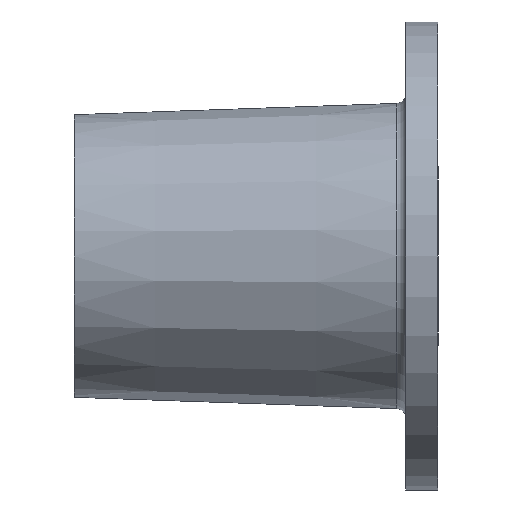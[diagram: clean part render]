
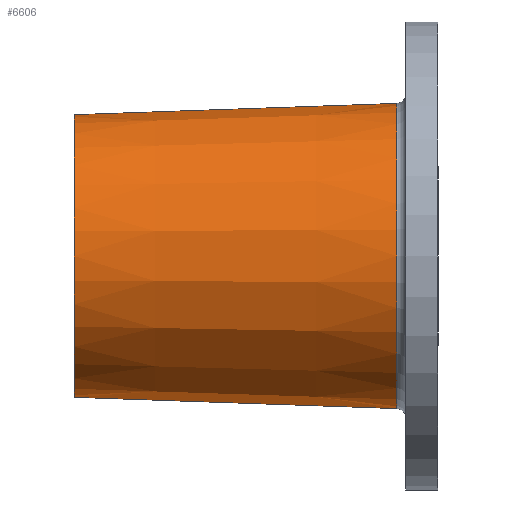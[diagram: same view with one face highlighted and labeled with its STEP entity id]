
A CAD part, left-side view. The second image highlights one B-rep face of the part: STEP entity #6606.
In plain terms, the highlighted conical face has half-angle 2 degrees and reference radius 69.017 mm.
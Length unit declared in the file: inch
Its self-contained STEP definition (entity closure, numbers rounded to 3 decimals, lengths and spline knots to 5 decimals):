
#31 = EDGE_LOOP ( 'NONE', ( #6785, #2411, #5236, #838 ) ) ;
#220 = VECTOR ( 'NONE', #3732, 39.37008 ) ;
#380 = EDGE_CURVE ( 'NONE', #2284, #5742, #1308, .T. ) ;
#423 = DIRECTION ( 'NONE',  ( 0., 0., -1. ) ) ;
#427 = CARTESIAN_POINT ( 'NONE',  ( 0., 7., -2.71721 ) ) ;
#791 = CARTESIAN_POINT ( 'NONE',  ( 0., 0.79372, 2.93393 ) ) ;
#813 = EDGE_CURVE ( 'NONE', #2284, #6011, #3197, .T. ) ;
#838 = ORIENTED_EDGE ( 'NONE', *, *, #1661, .T. ) ;
#1197 = DIRECTION ( 'NONE',  ( 0., 1., 0. ) ) ;
#1308 = LINE ( 'NONE', #3825, #2779 ) ;
#1501 = LINE ( 'NONE', #427, #220 ) ;
#1661 = EDGE_CURVE ( 'NONE', #5138, #5742, #3411, .T. ) ;
#2192 = EDGE_CURVE ( 'NONE', #6011, #5138, #1501, .T. ) ;
#2284 = VERTEX_POINT ( 'NONE', #4896 ) ;
#2411 = ORIENTED_EDGE ( 'NONE', *, *, #813, .T. ) ;
#2498 = DIRECTION ( 'NONE',  ( 0., -1., 0. ) ) ;
#2779 = VECTOR ( 'NONE', #7112, 39.37008 ) ;
#3101 = AXIS2_PLACEMENT_3D ( 'NONE', #5786, #2498, #6345 ) ;
#3197 = CIRCLE ( 'NONE', #3101, 2.71721 ) ;
#3411 = CIRCLE ( 'NONE', #4159, 2.93393 ) ;
#3613 = AXIS2_PLACEMENT_3D ( 'NONE', #7035, #3727, #423 ) ;
#3727 = DIRECTION ( 'NONE',  ( 0., -1., 0. ) ) ;
#3732 = DIRECTION ( 'NONE',  ( 0., -0.999, -0.035 ) ) ;
#3825 = CARTESIAN_POINT ( 'NONE',  ( 0., 7., 2.71721 ) ) ;
#4159 = AXIS2_PLACEMENT_3D ( 'NONE', #4488, #1197, #5049 ) ;
#4488 = CARTESIAN_POINT ( 'NONE',  ( 0., 0.79372, 0. ) ) ;
#4514 = CONICAL_SURFACE ( 'NONE', #3613, 2.71721, 0.035 ) ;
#4896 = CARTESIAN_POINT ( 'NONE',  ( 0., 7., 2.71721 ) ) ;
#5049 = DIRECTION ( 'NONE',  ( 0., 0., -1. ) ) ;
#5138 = VERTEX_POINT ( 'NONE', #6999 ) ;
#5236 = ORIENTED_EDGE ( 'NONE', *, *, #2192, .T. ) ;
#5742 = VERTEX_POINT ( 'NONE', #791 ) ;
#5786 = CARTESIAN_POINT ( 'NONE',  ( 0., 7., 0. ) ) ;
#6011 = VERTEX_POINT ( 'NONE', #6717 ) ;
#6153 = FACE_OUTER_BOUND ( 'NONE', #31, .T. ) ;
#6345 = DIRECTION ( 'NONE',  ( 0., 0., -1. ) ) ;
#6606 = ADVANCED_FACE ( 'NONE', ( #6153 ), #4514, .T. ) ;
#6717 = CARTESIAN_POINT ( 'NONE',  ( 0., 7., -2.71721 ) ) ;
#6785 = ORIENTED_EDGE ( 'NONE', *, *, #380, .F. ) ;
#6999 = CARTESIAN_POINT ( 'NONE',  ( 0., 0.79372, -2.93393 ) ) ;
#7035 = CARTESIAN_POINT ( 'NONE',  ( 0., 7., 0. ) ) ;
#7112 = DIRECTION ( 'NONE',  ( 0., -0.999, 0.035 ) ) ;
